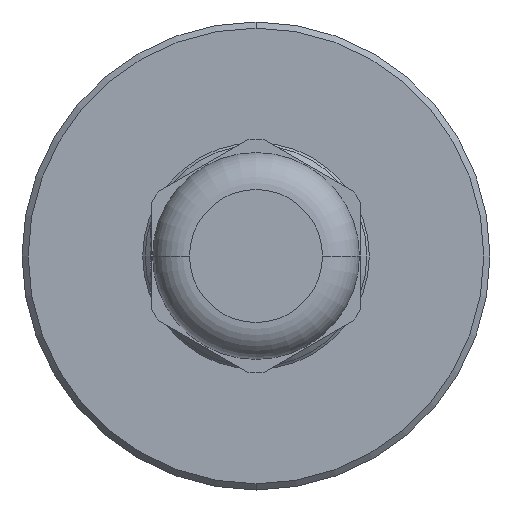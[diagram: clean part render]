
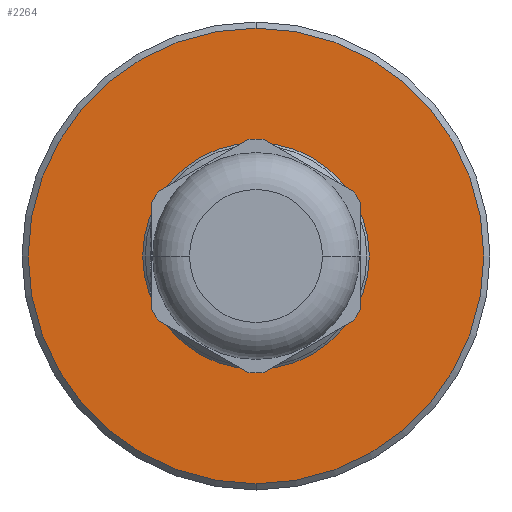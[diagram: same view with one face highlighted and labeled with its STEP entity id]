
A CAD part, front view. The second image highlights one B-rep face of the part: STEP entity #2264.
In plain terms, the highlighted planar face has unit normal (0, -1, 0).
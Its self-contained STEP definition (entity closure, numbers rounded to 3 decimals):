
#316 = DIRECTION ( 'NONE',  ( 0., 0., -1. ) ) ;
#621 = DIRECTION ( 'NONE',  ( 0., 0., -1. ) ) ;
#897 = VERTEX_POINT ( 'NONE', #14144 ) ;
#1054 = CIRCLE ( 'NONE', #7960, 18.5 ) ;
#1113 = DIRECTION ( 'NONE',  ( 0., 0., -1. ) ) ;
#2264 = ADVANCED_FACE ( 'NONE', ( #10142, #12173 ), #4555, .T. ) ;
#3419 = ORIENTED_EDGE ( 'NONE', *, *, #3461, .T. ) ;
#3461 = EDGE_CURVE ( 'NONE', #13757, #12585, #7571, .T. ) ;
#3681 = CARTESIAN_POINT ( 'NONE',  ( 0., -13.5, 0. ) ) ;
#3851 = EDGE_LOOP ( 'NONE', ( #14487, #4336 ) ) ;
#4067 = AXIS2_PLACEMENT_3D ( 'NONE', #16002, #7361, #316 ) ;
#4336 = ORIENTED_EDGE ( 'NONE', *, *, #16644, .T. ) ;
#4444 = DIRECTION ( 'NONE',  ( 0., 1., 0. ) ) ;
#4533 = CIRCLE ( 'NONE', #16045, 9.2 ) ;
#4555 = PLANE ( 'NONE',  #4067 ) ;
#5017 = CARTESIAN_POINT ( 'NONE',  ( 0., -13.5, -18.5 ) ) ;
#6760 = DIRECTION ( 'NONE',  ( 0., 1., 0. ) ) ;
#7094 = ORIENTED_EDGE ( 'NONE', *, *, #9309, .T. ) ;
#7361 = DIRECTION ( 'NONE',  ( 0., -1., 0. ) ) ;
#7571 = CIRCLE ( 'NONE', #15271, 18.5 ) ;
#7627 = EDGE_LOOP ( 'NONE', ( #3419, #7094 ) ) ;
#7844 = VERTEX_POINT ( 'NONE', #16987 ) ;
#7960 = AXIS2_PLACEMENT_3D ( 'NONE', #3681, #8090, #1113 ) ;
#8090 = DIRECTION ( 'NONE',  ( 0., -1., 0. ) ) ;
#9309 = EDGE_CURVE ( 'NONE', #12585, #13757, #1054, .T. ) ;
#9958 = AXIS2_PLACEMENT_3D ( 'NONE', #12805, #4444, #14435 ) ;
#10142 = FACE_OUTER_BOUND ( 'NONE', #7627, .T. ) ;
#12173 = FACE_BOUND ( 'NONE', #3851, .T. ) ;
#12585 = VERTEX_POINT ( 'NONE', #5017 ) ;
#12805 = CARTESIAN_POINT ( 'NONE',  ( 0., -13.5, 0. ) ) ;
#12963 = EDGE_CURVE ( 'NONE', #7844, #897, #16417, .T. ) ;
#13757 = VERTEX_POINT ( 'NONE', #15726 ) ;
#14144 = CARTESIAN_POINT ( 'NONE',  ( 0., -13.5, -9.2 ) ) ;
#14435 = DIRECTION ( 'NONE',  ( 0., 0., -1. ) ) ;
#14487 = ORIENTED_EDGE ( 'NONE', *, *, #12963, .T. ) ;
#14905 = CARTESIAN_POINT ( 'NONE',  ( 0., -13.5, 0. ) ) ;
#15271 = AXIS2_PLACEMENT_3D ( 'NONE', #14905, #17828, #621 ) ;
#15351 = CARTESIAN_POINT ( 'NONE',  ( 0., -13.5, 0. ) ) ;
#15726 = CARTESIAN_POINT ( 'NONE',  ( 0., -13.5, 18.5 ) ) ;
#16002 = CARTESIAN_POINT ( 'NONE',  ( 0., -13.5, 0. ) ) ;
#16045 = AXIS2_PLACEMENT_3D ( 'NONE', #15351, #6760, #18198 ) ;
#16417 = CIRCLE ( 'NONE', #9958, 9.2 ) ;
#16644 = EDGE_CURVE ( 'NONE', #897, #7844, #4533, .T. ) ;
#16987 = CARTESIAN_POINT ( 'NONE',  ( 0., -13.5, 9.2 ) ) ;
#17828 = DIRECTION ( 'NONE',  ( 0., -1., 0. ) ) ;
#18198 = DIRECTION ( 'NONE',  ( 0., 0., -1. ) ) ;
